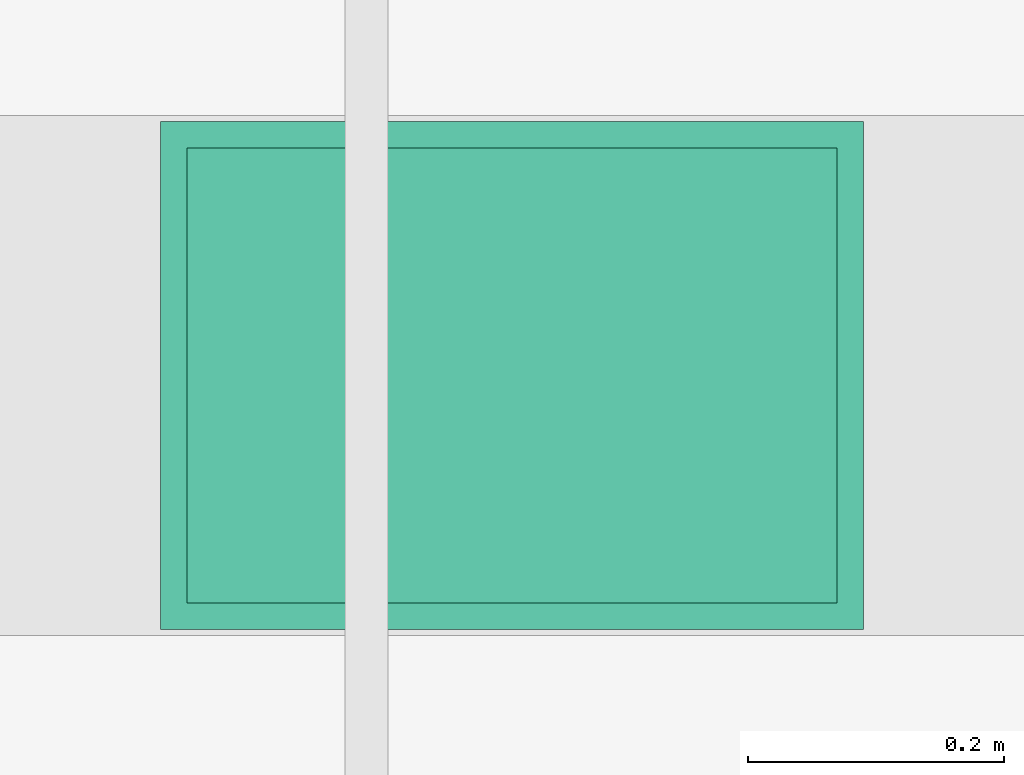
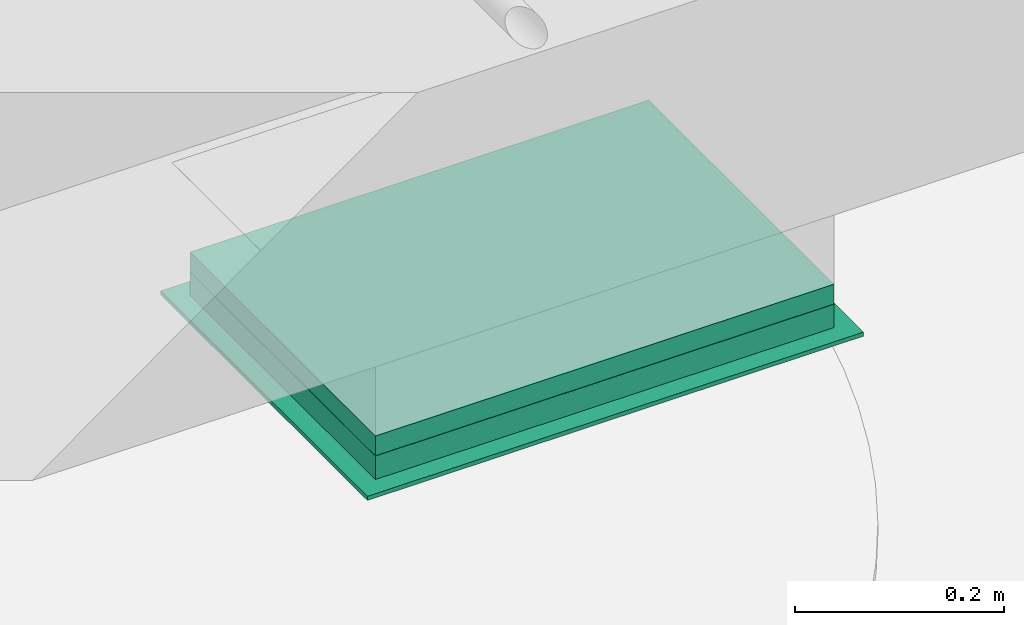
# One storey, part 38 of 108: 1 air terminal, 1 duct segment.
"""IFC4 building model written with IfcOpenShell, lengths in feet."""

from ifc_helpers import new_model, entity, si_unit, converted_unit, derived_unit, direction, frame, frame_2d, origin, place, context, subcontext, project, spatial, rectangle, extrude, source, transform, mapped, type_object, type_shapes, element, save


model = new_model("IFC4")

# Units and contexts
model_context = context("Model", 3, precision=0.0001, world=origin(), true_north=direction((6.12303176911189e-17, 1.0)))
body_context = subcontext(model_context, "Body", "Model", "MODEL_VIEW")
ifc_project = project(units=[converted_unit("LENGTHUNIT", "FOOT", entity("IfcRatioMeasure", 0.3048), si_unit("LENGTHUNIT", "METRE"), dimensions=[1, 0, 0, 0, 0, 0, 0]), converted_unit("AREAUNIT", "SQUARE FOOT", entity("IfcRatioMeasure", 0.09290304), si_unit("AREAUNIT", "SQUARE_METRE"), dimensions=[2, 0, 0, 0, 0, 0, 0]), converted_unit("VOLUMEUNIT", "CUBIC FOOT", entity("IfcRatioMeasure", 0.028316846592), si_unit("VOLUMEUNIT", "CUBIC_METRE"), dimensions=[3, 0, 0, 0, 0, 0, 0]), converted_unit("PLANEANGLEUNIT", "DEGREE", entity("IfcRatioMeasure", 0.0174532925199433), si_unit("PLANEANGLEUNIT", "RADIAN"), dimensions=[0, 0, 0, 0, 0, 0, 0]), si_unit("MASSUNIT", "GRAM", prefix="KILO"), derived_unit("MASSDENSITYUNIT", [(si_unit("MASSUNIT", "GRAM", prefix="KILO"), 1), (si_unit("LENGTHUNIT", "METRE"), -3)]), si_unit("TIMEUNIT", "SECOND"), si_unit("FREQUENCYUNIT", "HERTZ"), si_unit("THERMODYNAMICTEMPERATUREUNIT", "DEGREE_CELSIUS"), derived_unit("THERMALTRANSMITTANCEUNIT", [(si_unit("MASSUNIT", "GRAM", prefix="KILO"), 1), (si_unit("THERMODYNAMICTEMPERATUREUNIT", "KELVIN"), -1), (si_unit("TIMEUNIT", "SECOND"), -3)]), derived_unit("VOLUMETRICFLOWRATEUNIT", [(si_unit("LENGTHUNIT", "METRE"), 3), (si_unit("TIMEUNIT", "SECOND"), -1)]), si_unit("ELECTRICCURRENTUNIT", "AMPERE"), si_unit("ELECTRICVOLTAGEUNIT", "VOLT"), si_unit("POWERUNIT", "WATT"), si_unit("FORCEUNIT", "NEWTON"), si_unit("ILLUMINANCEUNIT", "LUX"), si_unit("LUMINOUSFLUXUNIT", "LUMEN"), si_unit("LUMINOUSINTENSITYUNIT", "CANDELA"), derived_unit("USERDEFINED", [(si_unit("MASSUNIT", "GRAM", prefix="KILO"), -1), (si_unit("LENGTHUNIT", "METRE"), -2), (si_unit("TIMEUNIT", "SECOND"), 3), (si_unit("LUMINOUSFLUXUNIT", "LUMEN"), 1)]), derived_unit("LINEARVELOCITYUNIT", [(si_unit("LENGTHUNIT", "METRE"), 1), (si_unit("TIMEUNIT", "SECOND"), -1)]), si_unit("PRESSUREUNIT", "PASCAL"), derived_unit("USERDEFINED", [(si_unit("LENGTHUNIT", "METRE"), -2), (si_unit("MASSUNIT", "GRAM", prefix="KILO"), 1), (si_unit("TIMEUNIT", "SECOND"), -2)])], contexts=[model_context])

# Site, building, storey
site_placement = place(None, origin())
site = spatial("IfcSite", under=ifc_project, at=site_placement, Name="Default", CompositionType="ELEMENT")
building_placement = place(site_placement, origin())
building = spatial("IfcBuilding", under=site, at=building_placement, CompositionType="ELEMENT")
storey_placement = place(building_placement, frame((0.0, 0.0, 168.0)))
storey = spatial("IfcBuildingStorey", under=building, at=storey_placement, Name="Level 15", CompositionType="ELEMENT", Elevation=168.0)

# Duct segment
duct_segment_type = type_object("IfcDuctSegmentType", Name="Rectangular Duct:Square Throat Elbows / S&D", PredefinedType="NOTDEFINED")
duct_segment_placement = place(storey_placement, frame((-37.1952399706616, -11.7654409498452, 8.67447916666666)))
element("IfcDuctSegment", 1, at=duct_segment_placement, inside=storey, type_object=duct_segment_type, Name="Rectangular Duct:Square Throat Elbows / S&D", ObjectType="Rectangular Duct:Square Throat Elbows / S&D", PredefinedType="NOTDEFINED", context=body_context, shape_type="SweptSolid", body=[
    extrude(rectangle(XDim=1.66666666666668, YDim=1.16666666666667, at=frame_2d((3.5527136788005e-15, -8.88178419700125e-16), x_axis=(1.0, 0.0))), frame((0.83333333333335, 0.583333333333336, 0.0), z_axis=(0.0, 0.0, 1.0), x_axis=(-1.0, 0.0, 0.0)), (0.0, 0.0, 1.0), 0.0755208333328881),
])

# Air terminal
air_terminal_type = type_object("IfcAirTerminalType", Name="20x14", PredefinedType="NOTDEFINED")
cartesian_point_1 = entity("IfcCartesianPoint", [0.901041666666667, -0.015625, 0.651041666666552])
vertex_point_1 = entity("IfcVertexPoint", cartesian_point_1)
cartesian_point_2 = entity("IfcCartesianPoint", [-0.901041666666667, -0.015625, 0.651041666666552])
vertex_point_2 = entity("IfcVertexPoint", cartesian_point_2)
ifc_direction_1 = entity("IfcDirection", [-1.0, 0.0, 0.0])
edge_curve_1 = entity("IfcEdgeCurve", vertex_point_1, vertex_point_2, entity("IfcTrimmedCurve", entity("IfcLine", cartesian_point_1, entity("IfcVector", ifc_direction_1, 1.0)), [cartesian_point_1], [cartesian_point_2], True, "CARTESIAN"), True)
cartesian_point_3 = entity("IfcCartesianPoint", [-0.901041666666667, -0.015625, -0.651041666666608])
vertex_point_3 = entity("IfcVertexPoint", cartesian_point_3)
ifc_direction_2 = entity("IfcDirection", [0.0, 0.0, -1.0])
edge_curve_2 = entity("IfcEdgeCurve", vertex_point_2, vertex_point_3, entity("IfcTrimmedCurve", entity("IfcLine", cartesian_point_2, entity("IfcVector", ifc_direction_2, 1.0)), [cartesian_point_2], [cartesian_point_3], True, "CARTESIAN"), True)
cartesian_point_4 = entity("IfcCartesianPoint", [0.901041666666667, -0.015625, -0.651041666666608])
vertex_point_4 = entity("IfcVertexPoint", cartesian_point_4)
ifc_direction_3 = entity("IfcDirection", [1.0, 0.0, 0.0])
edge_curve_3 = entity("IfcEdgeCurve", vertex_point_3, vertex_point_4, entity("IfcTrimmedCurve", entity("IfcLine", cartesian_point_3, entity("IfcVector", ifc_direction_3, 1.0)), [cartesian_point_3], [cartesian_point_4], True, "CARTESIAN"), True)
ifc_direction_4 = entity("IfcDirection", [0.0, 0.0, 1.0])
edge_curve_4 = entity("IfcEdgeCurve", vertex_point_4, vertex_point_1, entity("IfcTrimmedCurve", entity("IfcLine", cartesian_point_4, entity("IfcVector", ifc_direction_4, 1.0)), [cartesian_point_4], [cartesian_point_1], True, "CARTESIAN"), True)
ifc_direction_5 = entity("IfcDirection", [0.0, -1.0, 0.0])
cartesian_point_5 = entity("IfcCartesianPoint", [0.901041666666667, 0.0, 0.651041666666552])
vertex_point_5 = entity("IfcVertexPoint", cartesian_point_5)
cartesian_point_6 = entity("IfcCartesianPoint", [0.901041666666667, 0.0, -0.651041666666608])
vertex_point_6 = entity("IfcVertexPoint", cartesian_point_6)
edge_curve_5 = entity("IfcEdgeCurve", vertex_point_5, vertex_point_6, entity("IfcTrimmedCurve", entity("IfcLine", cartesian_point_5, entity("IfcVector", ifc_direction_2, 1.0)), [cartesian_point_5], [cartesian_point_6], True, "CARTESIAN"), True)
cartesian_point_7 = entity("IfcCartesianPoint", [-0.901041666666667, 0.0, -0.651041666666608])
vertex_point_7 = entity("IfcVertexPoint", cartesian_point_7)
edge_curve_6 = entity("IfcEdgeCurve", vertex_point_6, vertex_point_7, entity("IfcTrimmedCurve", entity("IfcLine", cartesian_point_6, entity("IfcVector", ifc_direction_1, 1.0)), [cartesian_point_6], [cartesian_point_7], True, "CARTESIAN"), True)
cartesian_point_8 = entity("IfcCartesianPoint", [-0.901041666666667, 0.0, 0.651041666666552])
vertex_point_8 = entity("IfcVertexPoint", cartesian_point_8)
edge_curve_7 = entity("IfcEdgeCurve", vertex_point_7, vertex_point_8, entity("IfcTrimmedCurve", entity("IfcLine", cartesian_point_7, entity("IfcVector", ifc_direction_4, 1.0)), [cartesian_point_7], [cartesian_point_8], True, "CARTESIAN"), True)
edge_curve_8 = entity("IfcEdgeCurve", vertex_point_8, vertex_point_5, entity("IfcTrimmedCurve", entity("IfcLine", cartesian_point_8, entity("IfcVector", ifc_direction_3, 1.0)), [cartesian_point_8], [cartesian_point_5], True, "CARTESIAN"), True)
cartesian_point_9 = entity("IfcCartesianPoint", [-0.833333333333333, 0.0, 0.583333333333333])
vertex_point_9 = entity("IfcVertexPoint", cartesian_point_9)
cartesian_point_10 = entity("IfcCartesianPoint", [-0.833333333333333, 0.0, -0.583333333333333])
vertex_point_10 = entity("IfcVertexPoint", cartesian_point_10)
edge_curve_9 = entity("IfcEdgeCurve", vertex_point_9, vertex_point_10, entity("IfcTrimmedCurve", entity("IfcLine", cartesian_point_9, entity("IfcVector", ifc_direction_2, 1.0)), [cartesian_point_9], [cartesian_point_10], True, "CARTESIAN"), True)
cartesian_point_11 = entity("IfcCartesianPoint", [0.833333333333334, 0.0, -0.583333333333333])
vertex_point_11 = entity("IfcVertexPoint", cartesian_point_11)
edge_curve_10 = entity("IfcEdgeCurve", vertex_point_10, vertex_point_11, entity("IfcTrimmedCurve", entity("IfcLine", cartesian_point_10, entity("IfcVector", ifc_direction_3, 1.0)), [cartesian_point_10], [cartesian_point_11], True, "CARTESIAN"), True)
cartesian_point_12 = entity("IfcCartesianPoint", [0.833333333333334, 0.0, 0.583333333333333])
vertex_point_12 = entity("IfcVertexPoint", cartesian_point_12)
edge_curve_11 = entity("IfcEdgeCurve", vertex_point_11, vertex_point_12, entity("IfcTrimmedCurve", entity("IfcLine", cartesian_point_11, entity("IfcVector", ifc_direction_4, 1.0)), [cartesian_point_11], [cartesian_point_12], True, "CARTESIAN"), True)
edge_curve_12 = entity("IfcEdgeCurve", vertex_point_12, vertex_point_9, entity("IfcTrimmedCurve", entity("IfcLine", cartesian_point_12, entity("IfcVector", ifc_direction_1, 1.0)), [cartesian_point_12], [cartesian_point_9], True, "CARTESIAN"), True)
ifc_direction_6 = entity("IfcDirection", [0.0, 1.0, 0.0])
edge_curve_13 = entity("IfcEdgeCurve", vertex_point_1, vertex_point_5, entity("IfcTrimmedCurve", entity("IfcLine", cartesian_point_1, entity("IfcVector", ifc_direction_6, 1.0)), [cartesian_point_1], [cartesian_point_5], True, "CARTESIAN"), True)
edge_curve_14 = entity("IfcEdgeCurve", vertex_point_8, vertex_point_2, entity("IfcTrimmedCurve", entity("IfcLine", cartesian_point_2, entity("IfcVector", ifc_direction_5, 1.0)), [cartesian_point_8], [cartesian_point_2], True, "CARTESIAN"), True)
edge_curve_15 = entity("IfcEdgeCurve", vertex_point_7, vertex_point_3, entity("IfcTrimmedCurve", entity("IfcLine", cartesian_point_3, entity("IfcVector", ifc_direction_5, 1.0)), [cartesian_point_7], [cartesian_point_3], True, "CARTESIAN"), True)
edge_curve_16 = entity("IfcEdgeCurve", vertex_point_6, vertex_point_4, entity("IfcTrimmedCurve", entity("IfcLine", cartesian_point_4, entity("IfcVector", ifc_direction_5, 1.0)), [cartesian_point_6], [cartesian_point_4], True, "CARTESIAN"), True)
cartesian_point_13 = entity("IfcCartesianPoint", [-0.833333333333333, 0.08984375, 0.583333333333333])
vertex_point_13 = entity("IfcVertexPoint", cartesian_point_13)
cartesian_point_14 = entity("IfcCartesianPoint", [0.833333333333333, 0.08984375, 0.583333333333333])
vertex_point_14 = entity("IfcVertexPoint", cartesian_point_14)
edge_curve_17 = entity("IfcEdgeCurve", vertex_point_13, vertex_point_14, entity("IfcTrimmedCurve", entity("IfcLine", cartesian_point_13, entity("IfcVector", ifc_direction_3, 1.0)), [cartesian_point_13], [cartesian_point_14], True, "CARTESIAN"), True)
cartesian_point_15 = entity("IfcCartesianPoint", [0.833333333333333, 0.08984375, -0.583333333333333])
vertex_point_15 = entity("IfcVertexPoint", cartesian_point_15)
edge_curve_18 = entity("IfcEdgeCurve", vertex_point_14, vertex_point_15, entity("IfcTrimmedCurve", entity("IfcLine", cartesian_point_14, entity("IfcVector", ifc_direction_2, 1.0)), [cartesian_point_14], [cartesian_point_15], True, "CARTESIAN"), True)
cartesian_point_16 = entity("IfcCartesianPoint", [-0.833333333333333, 0.08984375, -0.583333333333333])
vertex_point_16 = entity("IfcVertexPoint", cartesian_point_16)
edge_curve_19 = entity("IfcEdgeCurve", vertex_point_15, vertex_point_16, entity("IfcTrimmedCurve", entity("IfcLine", cartesian_point_15, entity("IfcVector", ifc_direction_1, 1.0)), [cartesian_point_15], [cartesian_point_16], True, "CARTESIAN"), True)
edge_curve_20 = entity("IfcEdgeCurve", vertex_point_16, vertex_point_13, entity("IfcTrimmedCurve", entity("IfcLine", cartesian_point_16, entity("IfcVector", ifc_direction_4, 1.0)), [cartesian_point_16], [cartesian_point_13], True, "CARTESIAN"), True)
cartesian_point_17 = entity("IfcCartesianPoint", [-0.8125, 0.08984375, 0.562500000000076])
vertex_point_17 = entity("IfcVertexPoint", cartesian_point_17)
cartesian_point_18 = entity("IfcCartesianPoint", [-0.8125, 0.08984375, -0.562500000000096])
vertex_point_18 = entity("IfcVertexPoint", cartesian_point_18)
edge_curve_21 = entity("IfcEdgeCurve", vertex_point_17, vertex_point_18, entity("IfcTrimmedCurve", entity("IfcLine", cartesian_point_17, entity("IfcVector", ifc_direction_2, 1.0)), [cartesian_point_17], [cartesian_point_18], True, "CARTESIAN"), True)
cartesian_point_19 = entity("IfcCartesianPoint", [0.8125, 0.08984375, -0.562500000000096])
vertex_point_19 = entity("IfcVertexPoint", cartesian_point_19)
edge_curve_22 = entity("IfcEdgeCurve", vertex_point_18, vertex_point_19, entity("IfcTrimmedCurve", entity("IfcLine", cartesian_point_18, entity("IfcVector", ifc_direction_3, 1.0)), [cartesian_point_18], [cartesian_point_19], True, "CARTESIAN"), True)
cartesian_point_20 = entity("IfcCartesianPoint", [0.8125, 0.08984375, 0.562500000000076])
vertex_point_20 = entity("IfcVertexPoint", cartesian_point_20)
edge_curve_23 = entity("IfcEdgeCurve", vertex_point_19, vertex_point_20, entity("IfcTrimmedCurve", entity("IfcLine", cartesian_point_19, entity("IfcVector", ifc_direction_4, 1.0)), [cartesian_point_19], [cartesian_point_20], True, "CARTESIAN"), True)
edge_curve_24 = entity("IfcEdgeCurve", vertex_point_20, vertex_point_17, entity("IfcTrimmedCurve", entity("IfcLine", cartesian_point_20, entity("IfcVector", ifc_direction_1, 1.0)), [cartesian_point_20], [cartesian_point_17], True, "CARTESIAN"), True)
edge_curve_25 = entity("IfcEdgeCurve", vertex_point_16, vertex_point_10, entity("IfcTrimmedCurve", entity("IfcLine", cartesian_point_10, entity("IfcVector", ifc_direction_5, 1.0)), [cartesian_point_16], [cartesian_point_10], True, "CARTESIAN"), True)
edge_curve_26 = entity("IfcEdgeCurve", vertex_point_9, vertex_point_13, entity("IfcTrimmedCurve", entity("IfcLine", cartesian_point_9, entity("IfcVector", ifc_direction_6, 1.0)), [cartesian_point_9], [cartesian_point_13], True, "CARTESIAN"), True)
edge_curve_27 = entity("IfcEdgeCurve", vertex_point_15, vertex_point_11, entity("IfcTrimmedCurve", entity("IfcLine", cartesian_point_11, entity("IfcVector", ifc_direction_5, 1.0)), [cartesian_point_15], [cartesian_point_11], True, "CARTESIAN"), True)
edge_curve_28 = entity("IfcEdgeCurve", vertex_point_14, vertex_point_12, entity("IfcTrimmedCurve", entity("IfcLine", cartesian_point_12, entity("IfcVector", ifc_direction_5, 1.0)), [cartesian_point_14], [cartesian_point_12], True, "CARTESIAN"), True)
cartesian_point_21 = entity("IfcCartesianPoint", [-0.8125, 0.0911458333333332, 0.562500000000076])
vertex_point_21 = entity("IfcVertexPoint", cartesian_point_21)
cartesian_point_22 = entity("IfcCartesianPoint", [0.8125, 0.0911458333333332, 0.562500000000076])
vertex_point_22 = entity("IfcVertexPoint", cartesian_point_22)
edge_curve_29 = entity("IfcEdgeCurve", vertex_point_21, vertex_point_22, entity("IfcTrimmedCurve", entity("IfcLine", cartesian_point_21, entity("IfcVector", ifc_direction_3, 1.0)), [cartesian_point_21], [cartesian_point_22], True, "CARTESIAN"), True)
cartesian_point_23 = entity("IfcCartesianPoint", [0.8125, 0.0911458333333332, -0.562500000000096])
vertex_point_23 = entity("IfcVertexPoint", cartesian_point_23)
edge_curve_30 = entity("IfcEdgeCurve", vertex_point_22, vertex_point_23, entity("IfcTrimmedCurve", entity("IfcLine", cartesian_point_22, entity("IfcVector", ifc_direction_2, 1.0)), [cartesian_point_22], [cartesian_point_23], True, "CARTESIAN"), True)
cartesian_point_24 = entity("IfcCartesianPoint", [-0.8125, 0.0911458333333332, -0.562500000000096])
vertex_point_24 = entity("IfcVertexPoint", cartesian_point_24)
edge_curve_31 = entity("IfcEdgeCurve", vertex_point_23, vertex_point_24, entity("IfcTrimmedCurve", entity("IfcLine", cartesian_point_23, entity("IfcVector", ifc_direction_1, 1.0)), [cartesian_point_23], [cartesian_point_24], True, "CARTESIAN"), True)
edge_curve_32 = entity("IfcEdgeCurve", vertex_point_24, vertex_point_21, entity("IfcTrimmedCurve", entity("IfcLine", cartesian_point_24, entity("IfcVector", ifc_direction_4, 1.0)), [cartesian_point_24], [cartesian_point_21], True, "CARTESIAN"), True)
edge_curve_33 = entity("IfcEdgeCurve", vertex_point_24, vertex_point_18, entity("IfcTrimmedCurve", entity("IfcLine", cartesian_point_18, entity("IfcVector", ifc_direction_5, 1.0)), [cartesian_point_24], [cartesian_point_18], True, "CARTESIAN"), True)
edge_curve_34 = entity("IfcEdgeCurve", vertex_point_17, vertex_point_21, entity("IfcTrimmedCurve", entity("IfcLine", cartesian_point_17, entity("IfcVector", ifc_direction_6, 1.0)), [cartesian_point_17], [cartesian_point_21], True, "CARTESIAN"), True)
edge_curve_35 = entity("IfcEdgeCurve", vertex_point_23, vertex_point_19, entity("IfcTrimmedCurve", entity("IfcLine", cartesian_point_19, entity("IfcVector", ifc_direction_5, 1.0)), [cartesian_point_23], [cartesian_point_19], True, "CARTESIAN"), True)
edge_curve_36 = entity("IfcEdgeCurve", vertex_point_22, vertex_point_20, entity("IfcTrimmedCurve", entity("IfcLine", cartesian_point_20, entity("IfcVector", ifc_direction_5, 1.0)), [cartesian_point_22], [cartesian_point_20], True, "CARTESIAN"), True)
shared_shape = source(origin(), body_context, "Body", "AdvancedBrep", [
    entity("IfcAdvancedBrep", entity("IfcClosedShell", [entity("IfcAdvancedFace", [entity("IfcFaceOuterBound", entity("IfcEdgeLoop", [entity("IfcOrientedEdge", None, None, edge_curve_1, True), entity("IfcOrientedEdge", None, None, edge_curve_2, True), entity("IfcOrientedEdge", None, None, edge_curve_3, True), entity("IfcOrientedEdge", None, None, edge_curve_4, True)]), True)], entity("IfcPlane", entity("IfcAxis2Placement3D", cartesian_point_2, ifc_direction_5, ifc_direction_1)), True), entity("IfcAdvancedFace", [entity("IfcFaceOuterBound", entity("IfcEdgeLoop", [entity("IfcOrientedEdge", None, None, edge_curve_5, True), entity("IfcOrientedEdge", None, None, edge_curve_6, True), entity("IfcOrientedEdge", None, None, edge_curve_7, True), entity("IfcOrientedEdge", None, None, edge_curve_8, True)]), True), entity("IfcFaceBound", entity("IfcEdgeLoop", [entity("IfcOrientedEdge", None, None, edge_curve_9, True), entity("IfcOrientedEdge", None, None, edge_curve_10, True), entity("IfcOrientedEdge", None, None, edge_curve_11, True), entity("IfcOrientedEdge", None, None, edge_curve_12, True)]), False)], entity("IfcPlane", entity("IfcAxis2Placement3D", cartesian_point_8, ifc_direction_6, ifc_direction_3)), True), entity("IfcAdvancedFace", [entity("IfcFaceOuterBound", entity("IfcEdgeLoop", [entity("IfcOrientedEdge", None, None, edge_curve_1, False), entity("IfcOrientedEdge", None, None, edge_curve_13, True), entity("IfcOrientedEdge", None, None, edge_curve_8, False), entity("IfcOrientedEdge", None, None, edge_curve_14, True)]), True)], entity("IfcPlane", entity("IfcAxis2Placement3D", cartesian_point_1, ifc_direction_4, ifc_direction_6)), True), entity("IfcAdvancedFace", [entity("IfcFaceOuterBound", entity("IfcEdgeLoop", [entity("IfcOrientedEdge", None, None, edge_curve_2, False), entity("IfcOrientedEdge", None, None, edge_curve_14, False), entity("IfcOrientedEdge", None, None, edge_curve_7, False), entity("IfcOrientedEdge", None, None, edge_curve_15, True)]), True)], entity("IfcPlane", entity("IfcAxis2Placement3D", cartesian_point_2, ifc_direction_1, ifc_direction_6)), True), entity("IfcAdvancedFace", [entity("IfcFaceOuterBound", entity("IfcEdgeLoop", [entity("IfcOrientedEdge", None, None, edge_curve_3, False), entity("IfcOrientedEdge", None, None, edge_curve_15, False), entity("IfcOrientedEdge", None, None, edge_curve_6, False), entity("IfcOrientedEdge", None, None, edge_curve_16, True)]), True)], entity("IfcPlane", entity("IfcAxis2Placement3D", cartesian_point_3, ifc_direction_2, ifc_direction_6)), True), entity("IfcAdvancedFace", [entity("IfcFaceOuterBound", entity("IfcEdgeLoop", [entity("IfcOrientedEdge", None, None, edge_curve_4, False), entity("IfcOrientedEdge", None, None, edge_curve_16, False), entity("IfcOrientedEdge", None, None, edge_curve_5, False), entity("IfcOrientedEdge", None, None, edge_curve_13, False)]), True)], entity("IfcPlane", entity("IfcAxis2Placement3D", cartesian_point_4, ifc_direction_3, ifc_direction_6)), True), entity("IfcAdvancedFace", [entity("IfcFaceOuterBound", entity("IfcEdgeLoop", [entity("IfcOrientedEdge", None, None, edge_curve_17, True), entity("IfcOrientedEdge", None, None, edge_curve_18, True), entity("IfcOrientedEdge", None, None, edge_curve_19, True), entity("IfcOrientedEdge", None, None, edge_curve_20, True)]), True), entity("IfcFaceBound", entity("IfcEdgeLoop", [entity("IfcOrientedEdge", None, None, edge_curve_21, True), entity("IfcOrientedEdge", None, None, edge_curve_22, True), entity("IfcOrientedEdge", None, None, edge_curve_23, True), entity("IfcOrientedEdge", None, None, edge_curve_24, True)]), False)], entity("IfcPlane", entity("IfcAxis2Placement3D", cartesian_point_13, ifc_direction_6, ifc_direction_4)), True), entity("IfcAdvancedFace", [entity("IfcFaceOuterBound", entity("IfcEdgeLoop", [entity("IfcOrientedEdge", None, None, edge_curve_20, False), entity("IfcOrientedEdge", None, None, edge_curve_25, True), entity("IfcOrientedEdge", None, None, edge_curve_9, False), entity("IfcOrientedEdge", None, None, edge_curve_26, True)]), True)], entity("IfcPlane", entity("IfcAxis2Placement3D", cartesian_point_9, ifc_direction_1, ifc_direction_6)), True), entity("IfcAdvancedFace", [entity("IfcFaceOuterBound", entity("IfcEdgeLoop", [entity("IfcOrientedEdge", None, None, edge_curve_19, False), entity("IfcOrientedEdge", None, None, edge_curve_27, True), entity("IfcOrientedEdge", None, None, edge_curve_10, False), entity("IfcOrientedEdge", None, None, edge_curve_25, False)]), True)], entity("IfcPlane", entity("IfcAxis2Placement3D", cartesian_point_10, ifc_direction_2, ifc_direction_6)), True), entity("IfcAdvancedFace", [entity("IfcFaceOuterBound", entity("IfcEdgeLoop", [entity("IfcOrientedEdge", None, None, edge_curve_18, False), entity("IfcOrientedEdge", None, None, edge_curve_28, True), entity("IfcOrientedEdge", None, None, edge_curve_11, False), entity("IfcOrientedEdge", None, None, edge_curve_27, False)]), True)], entity("IfcPlane", entity("IfcAxis2Placement3D", cartesian_point_11, ifc_direction_3, ifc_direction_6)), True), entity("IfcAdvancedFace", [entity("IfcFaceOuterBound", entity("IfcEdgeLoop", [entity("IfcOrientedEdge", None, None, edge_curve_17, False), entity("IfcOrientedEdge", None, None, edge_curve_26, False), entity("IfcOrientedEdge", None, None, edge_curve_12, False), entity("IfcOrientedEdge", None, None, edge_curve_28, False)]), True)], entity("IfcPlane", entity("IfcAxis2Placement3D", cartesian_point_12, ifc_direction_4, ifc_direction_6)), True), entity("IfcAdvancedFace", [entity("IfcFaceOuterBound", entity("IfcEdgeLoop", [entity("IfcOrientedEdge", None, None, edge_curve_29, True), entity("IfcOrientedEdge", None, None, edge_curve_30, True), entity("IfcOrientedEdge", None, None, edge_curve_31, True), entity("IfcOrientedEdge", None, None, edge_curve_32, True)]), True)], entity("IfcPlane", entity("IfcAxis2Placement3D", cartesian_point_21, ifc_direction_6, ifc_direction_4)), True), entity("IfcAdvancedFace", [entity("IfcFaceOuterBound", entity("IfcEdgeLoop", [entity("IfcOrientedEdge", None, None, edge_curve_32, False), entity("IfcOrientedEdge", None, None, edge_curve_33, True), entity("IfcOrientedEdge", None, None, edge_curve_21, False), entity("IfcOrientedEdge", None, None, edge_curve_34, True)]), True)], entity("IfcPlane", entity("IfcAxis2Placement3D", cartesian_point_17, ifc_direction_1, ifc_direction_6)), True), entity("IfcAdvancedFace", [entity("IfcFaceOuterBound", entity("IfcEdgeLoop", [entity("IfcOrientedEdge", None, None, edge_curve_31, False), entity("IfcOrientedEdge", None, None, edge_curve_35, True), entity("IfcOrientedEdge", None, None, edge_curve_22, False), entity("IfcOrientedEdge", None, None, edge_curve_33, False)]), True)], entity("IfcPlane", entity("IfcAxis2Placement3D", cartesian_point_18, ifc_direction_2, ifc_direction_6)), True), entity("IfcAdvancedFace", [entity("IfcFaceOuterBound", entity("IfcEdgeLoop", [entity("IfcOrientedEdge", None, None, edge_curve_30, False), entity("IfcOrientedEdge", None, None, edge_curve_36, True), entity("IfcOrientedEdge", None, None, edge_curve_23, False), entity("IfcOrientedEdge", None, None, edge_curve_35, False)]), True)], entity("IfcPlane", entity("IfcAxis2Placement3D", cartesian_point_19, ifc_direction_3, ifc_direction_6)), True), entity("IfcAdvancedFace", [entity("IfcFaceOuterBound", entity("IfcEdgeLoop", [entity("IfcOrientedEdge", None, None, edge_curve_29, False), entity("IfcOrientedEdge", None, None, edge_curve_34, False), entity("IfcOrientedEdge", None, None, edge_curve_24, False), entity("IfcOrientedEdge", None, None, edge_curve_36, False)]), True)], entity("IfcPlane", entity("IfcAxis2Placement3D", cartesian_point_20, ifc_direction_4, ifc_direction_6)), True)])),
])
type_shapes(air_terminal_type, [shared_shape])
air_terminal_placement = place(storey_placement, frame((-36.3619066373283, -11.1821076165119, 8.58333333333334), z_axis=(0.0, -1.0, 0.0), x_axis=(1.0, 0.0, 0.0)))
element("IfcAirTerminal", 2, at=air_terminal_placement, inside=storey, type_object=air_terminal_type, Name="Supply Diffuser - Sidewall:20x14", ObjectType="Supply Diffuser - Sidewall:20x14", PredefinedType="NOTDEFINED", context=body_context, shape_type="MappedRepresentation", body=[
    mapped(shared_shape, transform((0.0, 0.0, 0.0), scale=1.0)),
])

save(model, "model.ifc")
